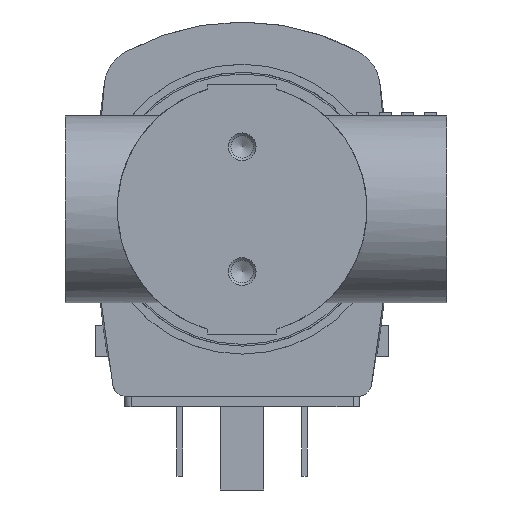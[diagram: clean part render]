
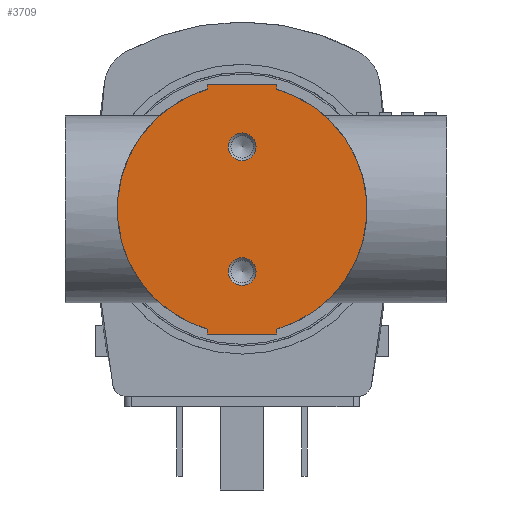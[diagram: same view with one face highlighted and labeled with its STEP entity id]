
A CAD part, front view. The second image highlights one B-rep face of the part: STEP entity #3709.
In plain terms, the highlighted planar face has unit normal (0, -1, 0).
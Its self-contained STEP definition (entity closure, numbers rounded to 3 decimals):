
#99=PLANE('',#3930);
#260=LINE('',#5205,#481);
#261=LINE('',#5207,#482);
#262=LINE('',#5209,#483);
#263=LINE('',#5210,#484);
#264=LINE('',#5212,#485);
#265=LINE('',#5214,#486);
#481=VECTOR('',#4341,1000.);
#482=VECTOR('',#4342,1000.);
#483=VECTOR('',#4343,1000.);
#484=VECTOR('',#4344,1000.);
#485=VECTOR('',#4345,1000.);
#486=VECTOR('',#4346,1000.);
#803=ORIENTED_EDGE('',*,*,#1479,.T.);
#804=ORIENTED_EDGE('',*,*,#1480,.T.);
#805=ORIENTED_EDGE('',*,*,#1382,.T.);
#806=ORIENTED_EDGE('',*,*,#1481,.F.);
#807=ORIENTED_EDGE('',*,*,#1482,.F.);
#808=ORIENTED_EDGE('',*,*,#1483,.T.);
#809=ORIENTED_EDGE('',*,*,#1387,.T.);
#810=ORIENTED_EDGE('',*,*,#1484,.T.);
#811=ORIENTED_EDGE('',*,*,#1485,.T.);
#812=ORIENTED_EDGE('',*,*,#1486,.F.);
#1382=EDGE_CURVE('',#1744,#1745,#1994,.T.);
#1387=EDGE_CURVE('',#1750,#1749,#1995,.T.);
#1479=EDGE_CURVE('',#1816,#1816,#2029,.T.);
#1480=EDGE_CURVE('',#1817,#1817,#2030,.T.);
#1481=EDGE_CURVE('',#1818,#1745,#260,.T.);
#1482=EDGE_CURVE('',#1819,#1818,#261,.T.);
#1483=EDGE_CURVE('',#1819,#1750,#262,.T.);
#1484=EDGE_CURVE('',#1749,#1820,#263,.T.);
#1485=EDGE_CURVE('',#1820,#1821,#264,.T.);
#1486=EDGE_CURVE('',#1744,#1821,#265,.T.);
#1744=VERTEX_POINT('',#4933);
#1745=VERTEX_POINT('',#4934);
#1749=VERTEX_POINT('',#4950);
#1750=VERTEX_POINT('',#4952);
#1816=VERTEX_POINT('',#5202);
#1817=VERTEX_POINT('',#5204);
#1818=VERTEX_POINT('',#5206);
#1819=VERTEX_POINT('',#5208);
#1820=VERTEX_POINT('',#5211);
#1821=VERTEX_POINT('',#5213);
#1994=CIRCLE('',#3856,18.);
#1995=CIRCLE('',#3857,18.);
#2029=CIRCLE('',#3931,2.);
#2030=CIRCLE('',#3932,2.);
#2122=EDGE_LOOP('',(#803));
#2123=EDGE_LOOP('',(#804));
#2124=EDGE_LOOP('',(#805,#806,#807,#808,#809,#810,#811,#812));
#2332=FACE_BOUND('',#2122,.T.);
#2333=FACE_BOUND('',#2123,.T.);
#2334=FACE_BOUND('',#2124,.T.);
#3709=ADVANCED_FACE('',(#2332,#2333,#2334),#99,.F.);
#3856=AXIS2_PLACEMENT_3D('',#4932,#4143,#4144);
#3857=AXIS2_PLACEMENT_3D('',#4951,#4147,#4148);
#3930=AXIS2_PLACEMENT_3D('',#5200,#4335,#4336);
#3931=AXIS2_PLACEMENT_3D('',#5201,#4337,#4338);
#3932=AXIS2_PLACEMENT_3D('',#5203,#4339,#4340);
#4143=DIRECTION('',(0.,-1.,0.));
#4144=DIRECTION('',(0.,0.,-1.));
#4147=DIRECTION('',(0.,-1.,0.));
#4148=DIRECTION('',(0.,0.,-1.));
#4335=DIRECTION('',(0.,1.,0.));
#4336=DIRECTION('',(0.,0.,1.));
#4337=DIRECTION('',(0.,1.,0.));
#4338=DIRECTION('',(0.,0.,1.));
#4339=DIRECTION('',(0.,1.,0.));
#4340=DIRECTION('',(0.,0.,1.));
#4341=DIRECTION('',(0.,0.,-1.));
#4342=DIRECTION('',(1.,0.,0.));
#4343=DIRECTION('',(0.,0.,-1.));
#4344=DIRECTION('',(0.,0.,-1.));
#4345=DIRECTION('',(1.,0.,0.));
#4346=DIRECTION('',(0.,0.,-1.));
#4932=CARTESIAN_POINT('',(0.,-14.,0.));
#4933=CARTESIAN_POINT('',(5.,-14.,-17.292));
#4934=CARTESIAN_POINT('',(5.,-14.,17.292));
#4950=CARTESIAN_POINT('',(-5.,-14.,-17.292));
#4951=CARTESIAN_POINT('',(0.,-14.,0.));
#4952=CARTESIAN_POINT('',(-5.,-14.,17.292));
#5200=CARTESIAN_POINT('',(18.,-14.,0.));
#5201=CARTESIAN_POINT('',(0.,-14.,-9.));
#5202=CARTESIAN_POINT('',(0.,-14.,-7.));
#5203=CARTESIAN_POINT('',(0.,-14.,9.));
#5204=CARTESIAN_POINT('',(0.,-14.,11.));
#5205=CARTESIAN_POINT('',(5.,-14.,18.));
#5206=CARTESIAN_POINT('',(5.,-14.,18.));
#5207=CARTESIAN_POINT('',(-5.,-14.,18.));
#5208=CARTESIAN_POINT('',(-5.,-14.,18.));
#5209=CARTESIAN_POINT('',(-5.,-14.,18.));
#5210=CARTESIAN_POINT('',(-5.,-14.,18.));
#5211=CARTESIAN_POINT('',(-5.,-14.,-18.));
#5212=CARTESIAN_POINT('',(-5.,-14.,-18.));
#5213=CARTESIAN_POINT('',(5.,-14.,-18.));
#5214=CARTESIAN_POINT('',(5.,-14.,18.));
